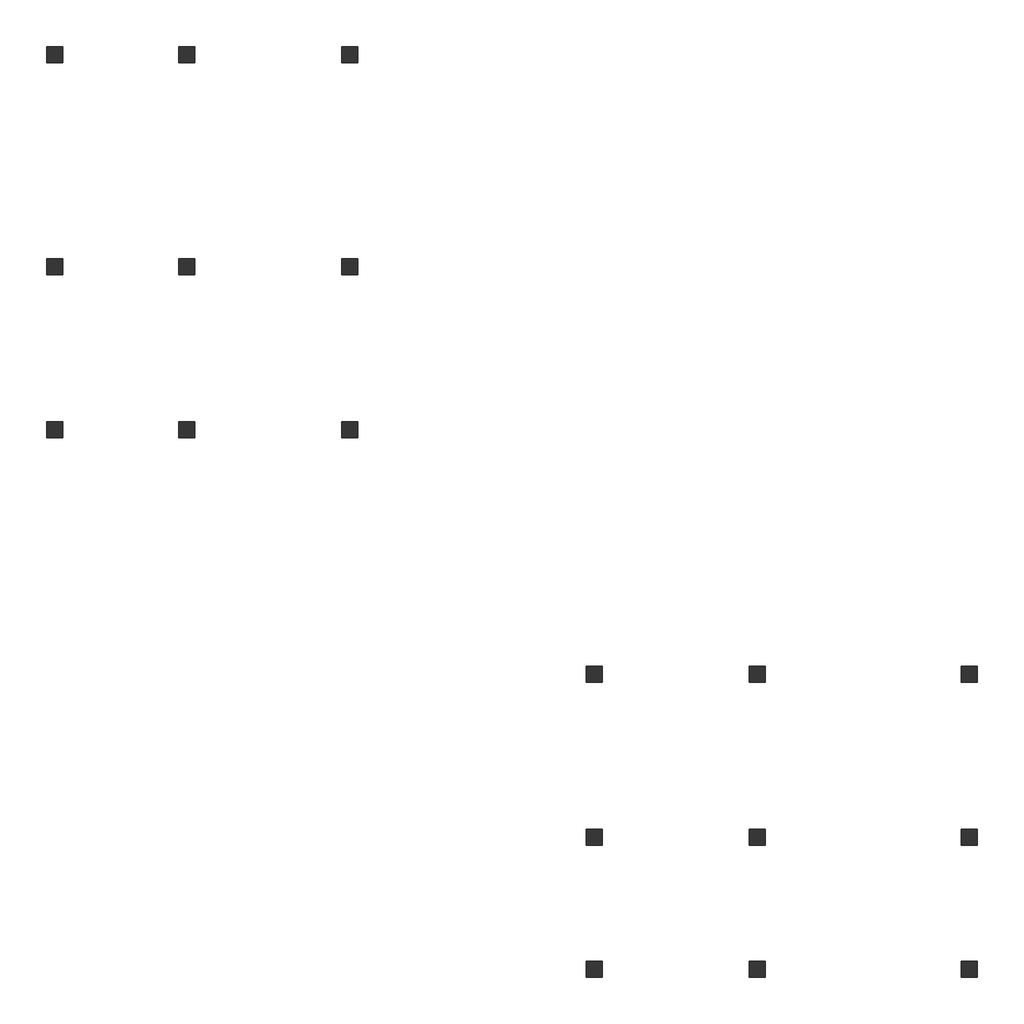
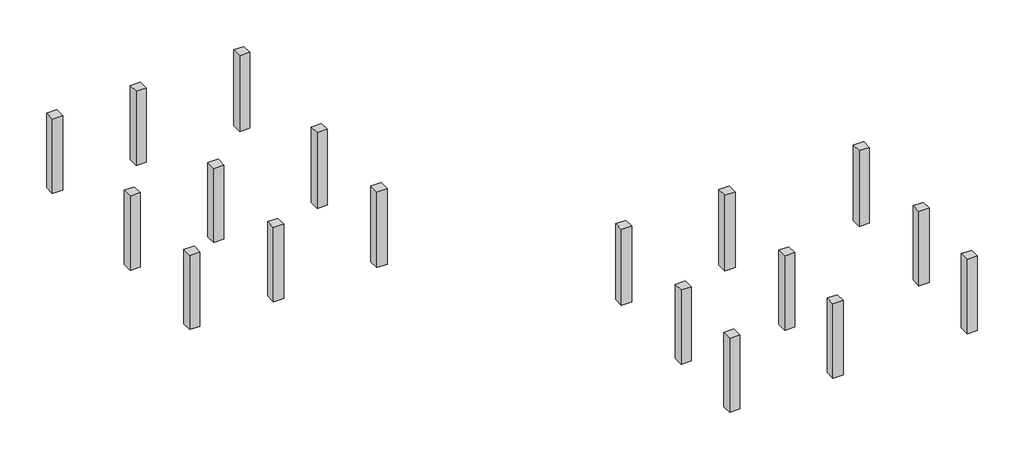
# One storey: 18 columns.
"""IFC4 building model written with IfcOpenShell, lengths in millimetres."""

from ifc_helpers import new_model, si_unit, frame, origin, place, context, project, spatial, polyline, outline, extrude, element, save

model = new_model("IFC4")

# Units and contexts
model_context = context("Model", 3, world=origin())
ifc_project = project(units=[si_unit("LENGTHUNIT", "METRE", prefix="MILLI")], contexts=[model_context])

# Site, building, storey
site = spatial("IfcSite", under=ifc_project)
building = spatial("IfcBuilding", under=site)
storey = spatial("IfcBuildingStorey", under=building, Name="T.O.F", Elevation=-1677.0)

# Columns
placement = place(None, origin())
element("IfcColumn", 1, ObjectType="M_Concrete-Rectangular-Column : 600 x 600mm", at=placement, inside=storey, context=model_context, shape_type="SweptSolid", body=[
    extrude(outline(polyline([(-21844.300634, -10058.8363965), (-21844.300634, -9458.8363965), (-21244.300634, -9458.8363965), (-21244.300634, -10058.8363965), (-21844.300634, -10058.8363965)])), frame((0.0, 0.0, -1677.0), z_axis=(0.0, 0.0, 1.0), x_axis=(1.0, 0.0, 0.0)), (0.0, 0.0, 1.0), 4635.0),
])
element("IfcColumn", 2, ObjectType="M_Concrete-Rectangular-Column : 600 x 600mm", at=placement, inside=storey, context=model_context, shape_type="SweptSolid", body=[
    extrude(outline(polyline([(-21844.300634, -3962.8363965), (-21844.300634, -3362.8363965), (-21244.300634, -3362.8363965), (-21244.300634, -3962.8363965), (-21844.300634, -3962.8363965)])), frame((0.0, 0.0, -1677.0), z_axis=(0.0, 0.0, 1.0), x_axis=(1.0, 0.0, 0.0)), (0.0, 0.0, 1.0), 4635.0),
])
element("IfcColumn", 3, ObjectType="M_Concrete-Rectangular-Column : 600 x 600mm", at=placement, inside=storey, context=model_context, shape_type="SweptSolid", body=[
    extrude(outline(polyline([(-21844.300634, 3962.1636035), (-21844.300634, 4562.1636035), (-21244.300634, 4562.1636035), (-21244.300634, 3962.1636035), (-21844.300634, 3962.1636035)])), frame((0.0, 0.0, -1677.0), z_axis=(0.0, 0.0, 1.0), x_axis=(1.0, 0.0, 0.0)), (0.0, 0.0, 1.0), 4635.0),
])
element("IfcColumn", 4, ObjectType="M_Concrete-Rectangular-Column : 600 x 600mm", at=placement, inside=storey, context=model_context, shape_type="SweptSolid", body=[
    extrude(outline(polyline([(-16904.9035319, -10058.8363965), (-16904.9035319, -9458.8363965), (-16304.9035319, -9458.8363965), (-16304.9035319, -10058.8363965), (-16904.9035319, -10058.8363965)])), frame((0.0, 0.0, -1677.0), z_axis=(0.0, 0.0, 1.0), x_axis=(1.0, 0.0, 0.0)), (0.0, 0.0, 1.0), 4635.0),
])
element("IfcColumn", 5, ObjectType="M_Concrete-Rectangular-Column : 600 x 600mm", at=placement, inside=storey, context=model_context, shape_type="SweptSolid", body=[
    extrude(outline(polyline([(-16904.9035319, -3962.8363965), (-16904.9035319, -3362.8363965), (-16304.9035319, -3362.8363965), (-16304.9035319, -3962.8363965), (-16904.9035319, -3962.8363965)])), frame((0.0, 0.0, -1677.0), z_axis=(0.0, 0.0, 1.0), x_axis=(1.0, 0.0, 0.0)), (0.0, 0.0, 1.0), 4635.0),
])
element("IfcColumn", 6, ObjectType="M_Concrete-Rectangular-Column : 600 x 600mm", at=placement, inside=storey, context=model_context, shape_type="SweptSolid", body=[
    extrude(outline(polyline([(-16904.9035319, 3962.1636035), (-16904.9035319, 4562.1636035), (-16304.9035319, 4562.1636035), (-16304.9035319, 3962.1636035), (-16904.9035319, 3962.1636035)])), frame((0.0, 0.0, -1677.0), z_axis=(0.0, 0.0, 1.0), x_axis=(1.0, 0.0, 0.0)), (0.0, 0.0, 1.0), 4635.0),
])
element("IfcColumn", 7, ObjectType="M_Concrete-Rectangular-Column : 600 x 600mm", at=placement, inside=storey, context=model_context, shape_type="SweptSolid", body=[
    extrude(outline(polyline([(-10808.9035319, -10058.8363965), (-10808.9035319, -9458.8363965), (-10208.9035319, -9458.8363965), (-10208.9035319, -10058.8363965), (-10808.9035319, -10058.8363965)])), frame((0.0, 0.0, -1677.0), z_axis=(0.0, 0.0, 1.0), x_axis=(1.0, 0.0, 0.0)), (0.0, 0.0, 1.0), 4725.0),
])
element("IfcColumn", 8, ObjectType="M_Concrete-Rectangular-Column : 600 x 600mm", at=placement, inside=storey, context=model_context, shape_type="SweptSolid", body=[
    extrude(outline(polyline([(-10808.9035319, -3962.8363965), (-10808.9035319, -3362.8363965), (-10208.9035319, -3362.8363965), (-10208.9035319, -3962.8363965), (-10808.9035319, -3962.8363965)])), frame((0.0, 0.0, -1677.0), z_axis=(0.0, 0.0, 1.0), x_axis=(1.0, 0.0, 0.0)), (0.0, 0.0, 1.0), 4725.0),
])
element("IfcColumn", 9, ObjectType="M_Concrete-Rectangular-Column : 600 x 600mm", at=placement, inside=storey, context=model_context, shape_type="SweptSolid", body=[
    extrude(outline(polyline([(-10808.9035319, 3962.1636035), (-10808.9035319, 4562.1636035), (-10208.9035319, 4562.1636035), (-10208.9035319, 3962.1636035), (-10808.9035319, 3962.1636035)])), frame((0.0, 0.0, -1677.0), z_axis=(0.0, 0.0, 1.0), x_axis=(1.0, 0.0, 0.0)), (0.0, 0.0, 1.0), 4725.0),
])
element("IfcColumn", 10, ObjectType="M_Concrete-Rectangular-Column : 600 x 600mm", at=placement, inside=storey, context=model_context, shape_type="SweptSolid", body=[
    extrude(outline(polyline([(-1064.9035319, -30238.2334986), (-1664.9035319, -30238.2334986), (-1664.9035319, -29638.2334986), (-1064.9035319, -29638.2334986), (-1064.9035319, -30238.2334986)])), frame((0.0, 0.0, -1677.0), z_axis=(0.0, 0.0, 1.0), x_axis=(1.0, 0.0, 0.0)), (0.0, 0.0, 1.0), 4635.0),
])
element("IfcColumn", 11, ObjectType="M_Concrete-Rectangular-Column : 600 x 600mm", at=placement, inside=storey, context=model_context, shape_type="SweptSolid", body=[
    extrude(outline(polyline([(5031.0964681, -30238.2334986), (4431.0964681, -30238.2334986), (4431.0964681, -29638.2334986), (5031.0964681, -29638.2334986), (5031.0964681, -30238.2334986)])), frame((0.0, 0.0, -1677.0), z_axis=(0.0, 0.0, 1.0), x_axis=(1.0, 0.0, 0.0)), (0.0, 0.0, 1.0), 4635.0),
])
element("IfcColumn", 12, ObjectType="M_Concrete-Rectangular-Column : 600 x 600mm", at=placement, inside=storey, context=model_context, shape_type="SweptSolid", body=[
    extrude(outline(polyline([(12956.0964681, -30238.2334986), (12356.0964681, -30238.2334986), (12356.0964681, -29638.2334986), (12956.0964681, -29638.2334986), (12956.0964681, -30238.2334986)])), frame((0.0, 0.0, -1677.0), z_axis=(0.0, 0.0, 1.0), x_axis=(1.0, 0.0, 0.0)), (0.0, 0.0, 1.0), 4635.0),
])
element("IfcColumn", 13, ObjectType="M_Concrete-Rectangular-Column : 600 x 600mm", at=placement, inside=storey, context=model_context, shape_type="SweptSolid", body=[
    extrude(outline(polyline([(-1064.9035319, -25298.8363965), (-1664.9035319, -25298.8363965), (-1664.9035319, -24698.8363965), (-1064.9035319, -24698.8363965), (-1064.9035319, -25298.8363965)])), frame((0.0, 0.0, -1677.0), z_axis=(0.0, 0.0, 1.0), x_axis=(1.0, 0.0, 0.0)), (0.0, 0.0, 1.0), 4635.0),
])
element("IfcColumn", 14, ObjectType="M_Concrete-Rectangular-Column : 600 x 600mm", at=placement, inside=storey, context=model_context, shape_type="SweptSolid", body=[
    extrude(outline(polyline([(5031.0964681, -25298.8363965), (4431.0964681, -25298.8363965), (4431.0964681, -24698.8363965), (5031.0964681, -24698.8363965), (5031.0964681, -25298.8363965)])), frame((0.0, 0.0, -1677.0), z_axis=(0.0, 0.0, 1.0), x_axis=(1.0, 0.0, 0.0)), (0.0, 0.0, 1.0), 4635.0),
])
element("IfcColumn", 15, ObjectType="M_Concrete-Rectangular-Column : 600 x 600mm", at=placement, inside=storey, context=model_context, shape_type="SweptSolid", body=[
    extrude(outline(polyline([(12956.0964681, -25298.8363965), (12356.0964681, -25298.8363965), (12356.0964681, -24698.8363965), (12956.0964681, -24698.8363965), (12956.0964681, -25298.8363965)])), frame((0.0, 0.0, -1677.0), z_axis=(0.0, 0.0, 1.0), x_axis=(1.0, 0.0, 0.0)), (0.0, 0.0, 1.0), 4635.0),
])
element("IfcColumn", 16, ObjectType="M_Concrete-Rectangular-Column : 600 x 600mm", at=placement, inside=storey, context=model_context, shape_type="SweptSolid", body=[
    extrude(outline(polyline([(-1664.9035319, -19202.8363965), (-1664.9035319, -18602.8363965), (-1064.9035319, -18602.8363965), (-1064.9035319, -19202.8363965), (-1664.9035319, -19202.8363965)])), frame((0.0, 0.0, -1677.0), z_axis=(0.0, 0.0, 1.0), x_axis=(1.0, 0.0, 0.0)), (0.0, 0.0, 1.0), 4725.0),
])
element("IfcColumn", 17, ObjectType="M_Concrete-Rectangular-Column : 600 x 600mm", at=placement, inside=storey, context=model_context, shape_type="SweptSolid", body=[
    extrude(outline(polyline([(4431.0964681, -19202.8363965), (4431.0964681, -18602.8363965), (5031.0964681, -18602.8363965), (5031.0964681, -19202.8363965), (4431.0964681, -19202.8363965)])), frame((0.0, 0.0, -1677.0), z_axis=(0.0, 0.0, 1.0), x_axis=(1.0, 0.0, 0.0)), (0.0, 0.0, 1.0), 4725.0),
])
element("IfcColumn", 18, ObjectType="M_Concrete-Rectangular-Column : 600 x 600mm", at=placement, inside=storey, context=model_context, shape_type="SweptSolid", body=[
    extrude(outline(polyline([(12356.0964681, -19202.8363965), (12356.0964681, -18602.8363965), (12956.0964681, -18602.8363965), (12956.0964681, -19202.8363965), (12356.0964681, -19202.8363965)])), frame((0.0, 0.0, -1677.0), z_axis=(0.0, 0.0, 1.0), x_axis=(1.0, 0.0, 0.0)), (0.0, 0.0, 1.0), 4725.0),
])

save(model, "model.ifc")
